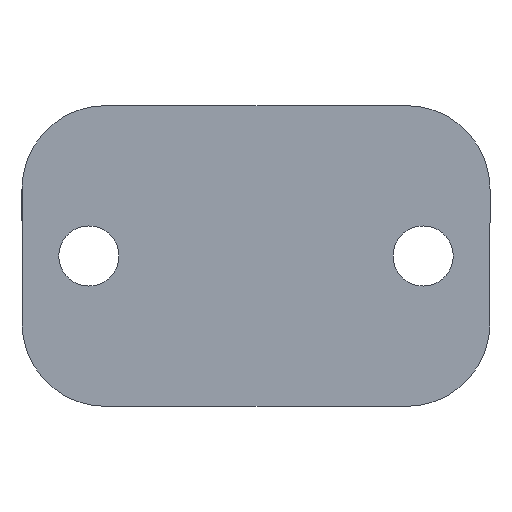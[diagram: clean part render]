
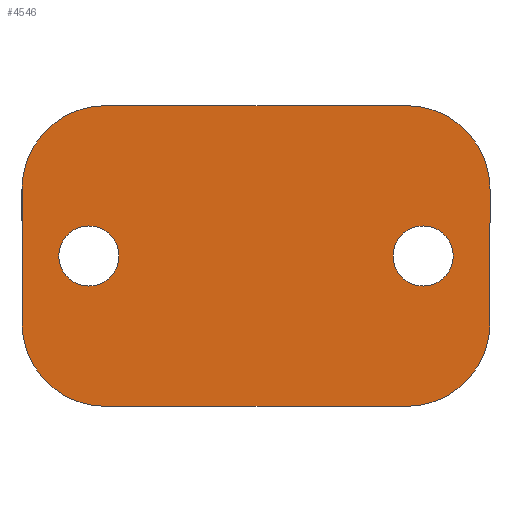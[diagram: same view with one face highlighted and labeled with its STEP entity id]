
A CAD part, front view. The second image highlights one B-rep face of the part: STEP entity #4546.
In plain terms, the highlighted planar face has unit normal (0, -1, 0).
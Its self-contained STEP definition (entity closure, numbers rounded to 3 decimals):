
#10 = CIRCLE ( 'NONE', #2741, 9. ) ;
#71 = CARTESIAN_POINT ( 'NONE',  ( -50., -20., 0. ) ) ;
#165 = CARTESIAN_POINT ( 'NONE',  ( 45., -20., 45. ) ) ;
#222 = EDGE_CURVE ( 'NONE', #2883, #2514, #3608, .T. ) ;
#292 = ORIENTED_EDGE ( 'NONE', *, *, #4763, .T. ) ;
#305 = AXIS2_PLACEMENT_3D ( 'NONE', #1300, #5317, #3218 ) ;
#472 = EDGE_CURVE ( 'NONE', #1473, #2603, #3421, .T. ) ;
#566 = CIRCLE ( 'NONE', #1281, 9. ) ;
#598 = VERTEX_POINT ( 'NONE', #1459 ) ;
#602 = DIRECTION ( 'NONE',  ( 1., 0., 0. ) ) ;
#622 = CARTESIAN_POINT ( 'NONE',  ( 50., -20., 0. ) ) ;
#678 = EDGE_CURVE ( 'NONE', #2459, #1473, #1539, .T. ) ;
#699 = DIRECTION ( 'NONE',  ( 0., -1., 0. ) ) ;
#713 = EDGE_CURVE ( 'NONE', #2227, #2054, #2043, .T. ) ;
#716 = EDGE_CURVE ( 'NONE', #2603, #858, #5044, .T. ) ;
#745 = CARTESIAN_POINT ( 'NONE',  ( 0., -20., 0. ) ) ;
#764 = VERTEX_POINT ( 'NONE', #3083 ) ;
#858 = VERTEX_POINT ( 'NONE', #3906 ) ;
#977 = DIRECTION ( 'NONE',  ( 1., 0., 0. ) ) ;
#981 = ORIENTED_EDGE ( 'NONE', *, *, #678, .T. ) ;
#1005 = EDGE_LOOP ( 'NONE', ( #2322, #1246, #292, #981, #2199, #3848, #1962, #3438 ) ) ;
#1108 = DIRECTION ( 'NONE',  ( 0., 0., -1. ) ) ;
#1156 = EDGE_CURVE ( 'NONE', #858, #2227, #4759, .T. ) ;
#1197 = CARTESIAN_POINT ( 'NONE',  ( 70., -20., 20. ) ) ;
#1218 = ORIENTED_EDGE ( 'NONE', *, *, #222, .F. ) ;
#1246 = ORIENTED_EDGE ( 'NONE', *, *, #1450, .T. ) ;
#1281 = AXIS2_PLACEMENT_3D ( 'NONE', #622, #1949, #2703 ) ;
#1300 = CARTESIAN_POINT ( 'NONE',  ( -45., -20., 20. ) ) ;
#1394 = VECTOR ( 'NONE', #2858, 1000. ) ;
#1450 = EDGE_CURVE ( 'NONE', #598, #3380, #4710, .T. ) ;
#1459 = CARTESIAN_POINT ( 'NONE',  ( -45., -20., -45. ) ) ;
#1473 = VERTEX_POINT ( 'NONE', #5134 ) ;
#1539 = LINE ( 'NONE', #1197, #1394 ) ;
#1622 = PLANE ( 'NONE',  #2007 ) ;
#1833 = CARTESIAN_POINT ( 'NONE',  ( -45., -20., -20. ) ) ;
#1949 = DIRECTION ( 'NONE',  ( 0., -1., 0. ) ) ;
#1962 = ORIENTED_EDGE ( 'NONE', *, *, #1156, .T. ) ;
#2001 = DIRECTION ( 'NONE',  ( 0., -1., 0. ) ) ;
#2007 = AXIS2_PLACEMENT_3D ( 'NONE', #745, #4297, #5126 ) ;
#2043 = LINE ( 'NONE', #4991, #3947 ) ;
#2054 = VERTEX_POINT ( 'NONE', #4178 ) ;
#2131 = AXIS2_PLACEMENT_3D ( 'NONE', #3316, #699, #4166 ) ;
#2199 = ORIENTED_EDGE ( 'NONE', *, *, #472, .T. ) ;
#2227 = VERTEX_POINT ( 'NONE', #3654 ) ;
#2273 = CARTESIAN_POINT ( 'NONE',  ( 45., -20., -45. ) ) ;
#2322 = ORIENTED_EDGE ( 'NONE', *, *, #2952, .T. ) ;
#2389 = VECTOR ( 'NONE', #2828, 1000. ) ;
#2435 = DIRECTION ( 'NONE',  ( 1., 0., 0. ) ) ;
#2445 = CARTESIAN_POINT ( 'NONE',  ( -45., -20., 45. ) ) ;
#2455 = CIRCLE ( 'NONE', #2468, 25. ) ;
#2459 = VERTEX_POINT ( 'NONE', #4660 ) ;
#2468 = AXIS2_PLACEMENT_3D ( 'NONE', #1833, #4390, #3974 ) ;
#2514 = VERTEX_POINT ( 'NONE', #3840 ) ;
#2603 = VERTEX_POINT ( 'NONE', #165 ) ;
#2655 = DIRECTION ( 'NONE',  ( 0., -1., 0. ) ) ;
#2703 = DIRECTION ( 'NONE',  ( 1., 0., 0. ) ) ;
#2741 = AXIS2_PLACEMENT_3D ( 'NONE', #5307, #3148, #977 ) ;
#2828 = DIRECTION ( 'NONE',  ( -1., 0., 0. ) ) ;
#2858 = DIRECTION ( 'NONE',  ( 0., 0., 1. ) ) ;
#2883 = VERTEX_POINT ( 'NONE', #3583 ) ;
#2910 = FACE_BOUND ( 'NONE', #4826, .T. ) ;
#2952 = EDGE_CURVE ( 'NONE', #2054, #598, #2455, .T. ) ;
#2980 = EDGE_CURVE ( 'NONE', #2514, #2883, #10, .T. ) ;
#3083 = CARTESIAN_POINT ( 'NONE',  ( 41., -20., 0. ) ) ;
#3114 = CIRCLE ( 'NONE', #3387, 9. ) ;
#3123 = CIRCLE ( 'NONE', #3213, 25. ) ;
#3144 = AXIS2_PLACEMENT_3D ( 'NONE', #71, #2655, #4385 ) ;
#3148 = DIRECTION ( 'NONE',  ( 0., -1., 0. ) ) ;
#3213 = AXIS2_PLACEMENT_3D ( 'NONE', #4230, #2001, #2435 ) ;
#3218 = DIRECTION ( 'NONE',  ( 1., 0., 0. ) ) ;
#3222 = CARTESIAN_POINT ( 'NONE',  ( 59., -20., 0. ) ) ;
#3224 = CARTESIAN_POINT ( 'NONE',  ( 50., -20., 0. ) ) ;
#3316 = CARTESIAN_POINT ( 'NONE',  ( 45., -20., 20. ) ) ;
#3380 = VERTEX_POINT ( 'NONE', #2273 ) ;
#3387 = AXIS2_PLACEMENT_3D ( 'NONE', #3224, #5376, #602 ) ;
#3405 = DIRECTION ( 'NONE',  ( 1., 0., 0. ) ) ;
#3421 = CIRCLE ( 'NONE', #2131, 25. ) ;
#3438 = ORIENTED_EDGE ( 'NONE', *, *, #713, .T. ) ;
#3583 = CARTESIAN_POINT ( 'NONE',  ( -41., -20., 0. ) ) ;
#3608 = CIRCLE ( 'NONE', #3144, 9. ) ;
#3654 = CARTESIAN_POINT ( 'NONE',  ( -70., -20., 20. ) ) ;
#3655 = EDGE_CURVE ( 'NONE', #5489, #764, #566, .T. ) ;
#3795 = ORIENTED_EDGE ( 'NONE', *, *, #3655, .F. ) ;
#3840 = CARTESIAN_POINT ( 'NONE',  ( -59., -20., 0. ) ) ;
#3848 = ORIENTED_EDGE ( 'NONE', *, *, #716, .T. ) ;
#3906 = CARTESIAN_POINT ( 'NONE',  ( -45., -20., 45. ) ) ;
#3914 = CARTESIAN_POINT ( 'NONE',  ( -45., -20., -45. ) ) ;
#3915 = EDGE_CURVE ( 'NONE', #764, #5489, #3114, .T. ) ;
#3947 = VECTOR ( 'NONE', #1108, 1000. ) ;
#3974 = DIRECTION ( 'NONE',  ( 1., 0., 0. ) ) ;
#4166 = DIRECTION ( 'NONE',  ( 1., 0., 0. ) ) ;
#4178 = CARTESIAN_POINT ( 'NONE',  ( -70., -20., -20. ) ) ;
#4230 = CARTESIAN_POINT ( 'NONE',  ( 45., -20., -20. ) ) ;
#4297 = DIRECTION ( 'NONE',  ( 0., -1., 0. ) ) ;
#4385 = DIRECTION ( 'NONE',  ( 1., 0., 0. ) ) ;
#4390 = DIRECTION ( 'NONE',  ( 0., -1., 0. ) ) ;
#4408 = EDGE_LOOP ( 'NONE', ( #3795, #4518 ) ) ;
#4518 = ORIENTED_EDGE ( 'NONE', *, *, #3915, .F. ) ;
#4546 = ADVANCED_FACE ( 'NONE', ( #2910, #5542, #4636 ), #1622, .T. ) ;
#4636 = FACE_OUTER_BOUND ( 'NONE', #1005, .T. ) ;
#4660 = CARTESIAN_POINT ( 'NONE',  ( 70., -20., -20. ) ) ;
#4694 = VECTOR ( 'NONE', #3405, 1000. ) ;
#4710 = LINE ( 'NONE', #3914, #4694 ) ;
#4759 = CIRCLE ( 'NONE', #305, 25. ) ;
#4763 = EDGE_CURVE ( 'NONE', #3380, #2459, #3123, .T. ) ;
#4826 = EDGE_LOOP ( 'NONE', ( #1218, #5417 ) ) ;
#4991 = CARTESIAN_POINT ( 'NONE',  ( -70., -20., 20. ) ) ;
#5044 = LINE ( 'NONE', #2445, #2389 ) ;
#5126 = DIRECTION ( 'NONE',  ( 1., 0., 0. ) ) ;
#5134 = CARTESIAN_POINT ( 'NONE',  ( 70., -20., 20. ) ) ;
#5307 = CARTESIAN_POINT ( 'NONE',  ( -50., -20., 0. ) ) ;
#5317 = DIRECTION ( 'NONE',  ( 0., -1., 0. ) ) ;
#5376 = DIRECTION ( 'NONE',  ( 0., -1., 0. ) ) ;
#5417 = ORIENTED_EDGE ( 'NONE', *, *, #2980, .F. ) ;
#5489 = VERTEX_POINT ( 'NONE', #3222 ) ;
#5542 = FACE_BOUND ( 'NONE', #4408, .T. ) ;
